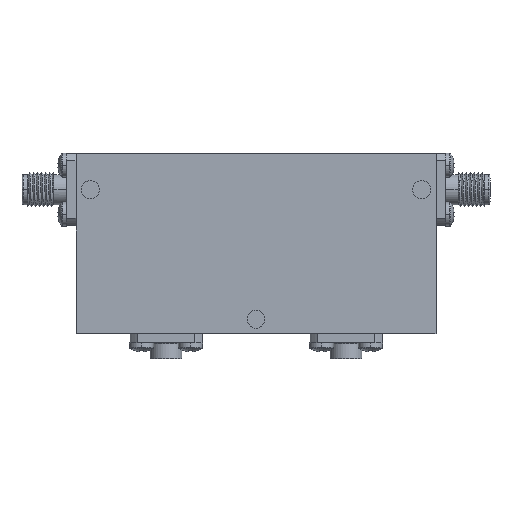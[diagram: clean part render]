
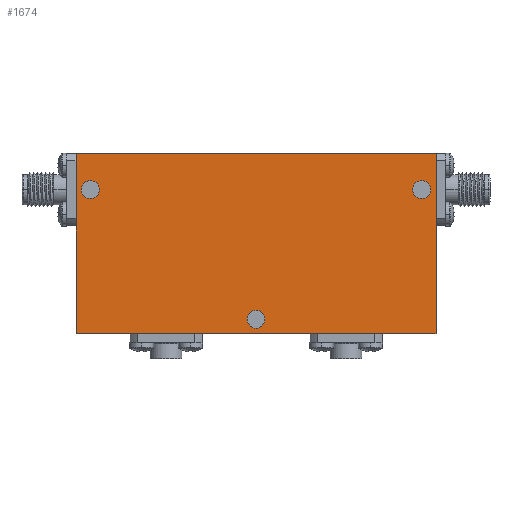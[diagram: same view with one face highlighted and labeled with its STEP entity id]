
A CAD part, top view. The second image highlights one B-rep face of the part: STEP entity #1674.
In plain terms, the highlighted planar face has unit normal (0, 0, 1).
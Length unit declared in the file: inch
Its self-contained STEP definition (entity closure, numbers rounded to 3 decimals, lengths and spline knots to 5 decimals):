
#29 = FACE_BOUND ( 'NONE', #2269, .T. ) ;
#77 = ORIENTED_EDGE ( 'NONE', *, *, #3070, .T. ) ;
#114 = DIRECTION ( 'NONE',  ( 0., 0., 1. ) ) ;
#222 = CARTESIAN_POINT ( 'NONE',  ( -1.2125, 0.375, 0.35 ) ) ;
#298 = VERTEX_POINT ( 'NONE', #2895 ) ;
#306 = EDGE_CURVE ( 'NONE', #298, #1347, #4864, .T. ) ;
#378 = CIRCLE ( 'NONE', #943, 0.0625 ) ;
#432 = CARTESIAN_POINT ( 'NONE',  ( 1.15, 0.375, 0.35 ) ) ;
#465 = FACE_BOUND ( 'NONE', #1906, .T. ) ;
#478 = EDGE_CURVE ( 'NONE', #4687, #4587, #2568, .T. ) ;
#544 = DIRECTION ( 'NONE',  ( -1., 0., 0. ) ) ;
#700 = EDGE_CURVE ( 'NONE', #4587, #4687, #378, .T. ) ;
#702 = DIRECTION ( 'NONE',  ( 1., 0., 0. ) ) ;
#764 = VECTOR ( 'NONE', #1549, 39.37008 ) ;
#808 = EDGE_CURVE ( 'NONE', #1208, #985, #4034, .T. ) ;
#934 = LINE ( 'NONE', #2367, #4830 ) ;
#943 = AXIS2_PLACEMENT_3D ( 'NONE', #2398, #114, #4626 ) ;
#985 = VERTEX_POINT ( 'NONE', #3574 ) ;
#1005 = AXIS2_PLACEMENT_3D ( 'NONE', #1448, #3372, #702 ) ;
#1011 = ORIENTED_EDGE ( 'NONE', *, *, #2735, .F. ) ;
#1188 = ORIENTED_EDGE ( 'NONE', *, *, #478, .F. ) ;
#1208 = VERTEX_POINT ( 'NONE', #2920 ) ;
#1217 = EDGE_LOOP ( 'NONE', ( #2343, #3424, #77, #3628 ) ) ;
#1260 = AXIS2_PLACEMENT_3D ( 'NONE', #2115, #2492, #1699 ) ;
#1286 = VERTEX_POINT ( 'NONE', #3382 ) ;
#1320 = DIRECTION ( 'NONE',  ( 0., 0., 1. ) ) ;
#1329 = EDGE_CURVE ( 'NONE', #985, #1286, #3172, .T. ) ;
#1346 = VERTEX_POINT ( 'NONE', #4124 ) ;
#1347 = VERTEX_POINT ( 'NONE', #2676 ) ;
#1448 = CARTESIAN_POINT ( 'NONE',  ( -1.15, 0.375, 0.35 ) ) ;
#1463 = CIRCLE ( 'NONE', #1715, 0.0625 ) ;
#1538 = EDGE_CURVE ( 'NONE', #1286, #2952, #934, .T. ) ;
#1549 = DIRECTION ( 'NONE',  ( 0., 1., 0. ) ) ;
#1624 = CARTESIAN_POINT ( 'NONE',  ( -1.25, -0.625, 0.35 ) ) ;
#1628 = CARTESIAN_POINT ( 'NONE',  ( 1.15, 0.375, 0.35 ) ) ;
#1668 = AXIS2_PLACEMENT_3D ( 'NONE', #1628, #1730, #2277 ) ;
#1674 = ADVANCED_FACE ( 'NONE', ( #2248, #29, #465, #2181 ), #1679, .T. ) ;
#1679 = PLANE ( 'NONE',  #1260 ) ;
#1699 = DIRECTION ( 'NONE',  ( 1., 0., 0. ) ) ;
#1715 = AXIS2_PLACEMENT_3D ( 'NONE', #432, #1965, #3084 ) ;
#1730 = DIRECTION ( 'NONE',  ( 0., 0., 1. ) ) ;
#1747 = VECTOR ( 'NONE', #3836, 39.37008 ) ;
#1797 = CARTESIAN_POINT ( 'NONE',  ( 0., -0.525, 0.35 ) ) ;
#1906 = EDGE_LOOP ( 'NONE', ( #1188, #3623 ) ) ;
#1925 = CARTESIAN_POINT ( 'NONE',  ( -1.0875, 0.375, 0.35 ) ) ;
#1965 = DIRECTION ( 'NONE',  ( 0., 0., 1. ) ) ;
#2087 = DIRECTION ( 'NONE',  ( 1., 0., 0. ) ) ;
#2115 = CARTESIAN_POINT ( 'NONE',  ( 0., 0., 0.35 ) ) ;
#2181 = FACE_OUTER_BOUND ( 'NONE', #1217, .T. ) ;
#2248 = FACE_BOUND ( 'NONE', #2464, .T. ) ;
#2269 = EDGE_LOOP ( 'NONE', ( #3878, #3167 ) ) ;
#2277 = DIRECTION ( 'NONE',  ( 1., 0., 0. ) ) ;
#2343 = ORIENTED_EDGE ( 'NONE', *, *, #1329, .T. ) ;
#2353 = AXIS2_PLACEMENT_3D ( 'NONE', #3568, #1320, #2087 ) ;
#2367 = CARTESIAN_POINT ( 'NONE',  ( -1.25, 0.625, 0.35 ) ) ;
#2398 = CARTESIAN_POINT ( 'NONE',  ( -1.15, 0.375, 0.35 ) ) ;
#2464 = EDGE_LOOP ( 'NONE', ( #1011, #4454 ) ) ;
#2492 = DIRECTION ( 'NONE',  ( 0., 0., 1. ) ) ;
#2514 = VECTOR ( 'NONE', #3316, 39.37008 ) ;
#2568 = CIRCLE ( 'NONE', #1005, 0.0625 ) ;
#2676 = CARTESIAN_POINT ( 'NONE',  ( 0.0625, -0.525, 0.35 ) ) ;
#2718 = CARTESIAN_POINT ( 'NONE',  ( 1.2125, 0.375, 0.35 ) ) ;
#2735 = EDGE_CURVE ( 'NONE', #3293, #1346, #1463, .T. ) ;
#2895 = CARTESIAN_POINT ( 'NONE',  ( -0.0625, -0.525, 0.35 ) ) ;
#2920 = CARTESIAN_POINT ( 'NONE',  ( -1.25, -0.625, 0.35 ) ) ;
#2952 = VERTEX_POINT ( 'NONE', #3718 ) ;
#3070 = EDGE_CURVE ( 'NONE', #2952, #1208, #3148, .T. ) ;
#3084 = DIRECTION ( 'NONE',  ( 1., 0., 0. ) ) ;
#3148 = LINE ( 'NONE', #4430, #2514 ) ;
#3167 = ORIENTED_EDGE ( 'NONE', *, *, #306, .F. ) ;
#3172 = LINE ( 'NONE', #4530, #764 ) ;
#3283 = DIRECTION ( 'NONE',  ( 0., 0., 1. ) ) ;
#3293 = VERTEX_POINT ( 'NONE', #2718 ) ;
#3316 = DIRECTION ( 'NONE',  ( 0., -1., 0. ) ) ;
#3372 = DIRECTION ( 'NONE',  ( 0., 0., 1. ) ) ;
#3382 = CARTESIAN_POINT ( 'NONE',  ( 1.25, 0.625, 0.35 ) ) ;
#3424 = ORIENTED_EDGE ( 'NONE', *, *, #1538, .T. ) ;
#3532 = EDGE_CURVE ( 'NONE', #1347, #298, #3916, .T. ) ;
#3568 = CARTESIAN_POINT ( 'NONE',  ( 0., -0.525, 0.35 ) ) ;
#3574 = CARTESIAN_POINT ( 'NONE',  ( 1.25, -0.625, 0.35 ) ) ;
#3623 = ORIENTED_EDGE ( 'NONE', *, *, #700, .F. ) ;
#3628 = ORIENTED_EDGE ( 'NONE', *, *, #808, .T. ) ;
#3718 = CARTESIAN_POINT ( 'NONE',  ( -1.25, 0.625, 0.35 ) ) ;
#3836 = DIRECTION ( 'NONE',  ( 1., 0., 0. ) ) ;
#3878 = ORIENTED_EDGE ( 'NONE', *, *, #3532, .F. ) ;
#3916 = CIRCLE ( 'NONE', #2353, 0.0625 ) ;
#3964 = CIRCLE ( 'NONE', #1668, 0.0625 ) ;
#4034 = LINE ( 'NONE', #1624, #1747 ) ;
#4124 = CARTESIAN_POINT ( 'NONE',  ( 1.0875, 0.375, 0.35 ) ) ;
#4266 = EDGE_CURVE ( 'NONE', #1346, #3293, #3964, .T. ) ;
#4430 = CARTESIAN_POINT ( 'NONE',  ( -1.25, 0.625, 0.35 ) ) ;
#4454 = ORIENTED_EDGE ( 'NONE', *, *, #4266, .F. ) ;
#4530 = CARTESIAN_POINT ( 'NONE',  ( 1.25, 0.625, 0.35 ) ) ;
#4587 = VERTEX_POINT ( 'NONE', #222 ) ;
#4599 = AXIS2_PLACEMENT_3D ( 'NONE', #1797, #3283, #4748 ) ;
#4626 = DIRECTION ( 'NONE',  ( 1., 0., 0. ) ) ;
#4687 = VERTEX_POINT ( 'NONE', #1925 ) ;
#4748 = DIRECTION ( 'NONE',  ( 1., 0., 0. ) ) ;
#4830 = VECTOR ( 'NONE', #544, 39.37008 ) ;
#4864 = CIRCLE ( 'NONE', #4599, 0.0625 ) ;
